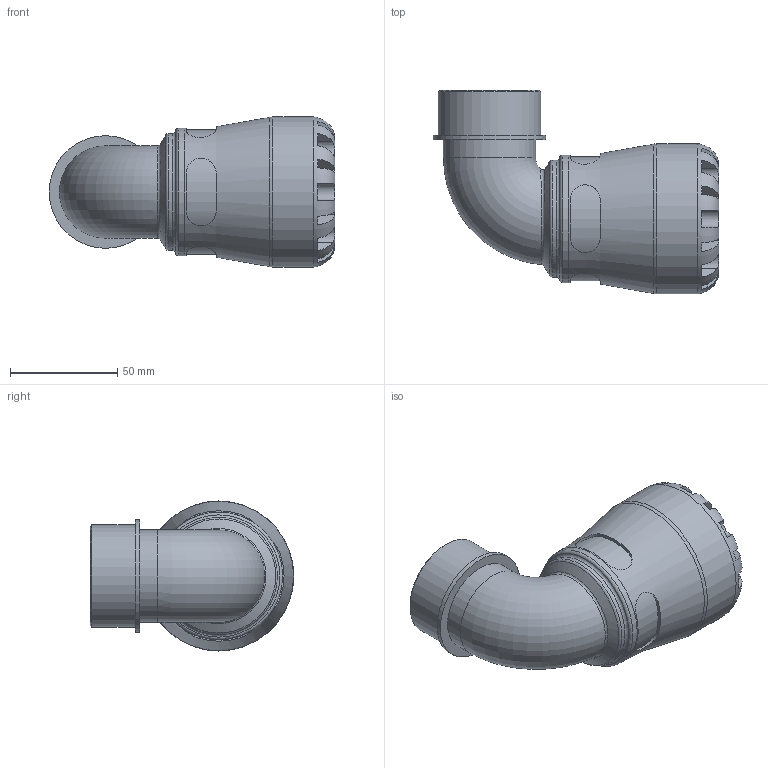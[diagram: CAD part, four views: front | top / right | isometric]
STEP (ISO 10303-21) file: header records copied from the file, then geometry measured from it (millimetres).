
FILE_DESCRIPTION(/* description */ ('PLASSON 90° ELBOW WITH THREADED MALE OFFTAKE 40X1.1/2" SERIES 1'),/* implementation_level */ '2;1');
FILE_NAME(/* name */ 'C:\Dropbox\KIMPROJECTS-Inventor\99-16-3568-Processing\1085\108500040015_198500040015.ipt.stp',/* time_stamp */ '2017-01-22T11:49:31+02:00',/* author */ ('KIM'),/* organization */ (''),/* preprocessor_version */ 'ST-DEVELOPER v15.6',/* originating_system */ 'Autodesk Inventor 2015',/* authorisation */ '');
FILE_SCHEMA (('AUTOMOTIVE_DESIGN { 1 0 10303 214 3 1 1 }'));
Length unit declared in the file: millimetre
Products named in the file (1): 108500040015_198500040015
Bounding box: 133.29 x 95 x 70 mm (x, y, z)
Volume: 209376.1 mm3; surface area: 51394.3 mm2
Topology: 1 solids, 1 shells, 110 faces, 269 edges, 167 vertices
Faces by surface type: plane 61, cylinder 37, torus 7, bspline 3, cone 2
Full cylindrical faces by diameter (mm): 33.462 x2, 40 x1, 43.023 x1, 47.803 x1, 52.583 x1, 54.6 x1, 59.5 x1, 70 x1
Entity records: 4339 total; most frequent: CARTESIAN_POINT 1799, ORIENTED_EDGE 488, DIRECTION 487, EDGE_CURVE 244, AXIS2_PLACEMENT_3D 203, VERTEX_POINT 161, EDGE_LOOP 137, STYLED_ITEM 111
